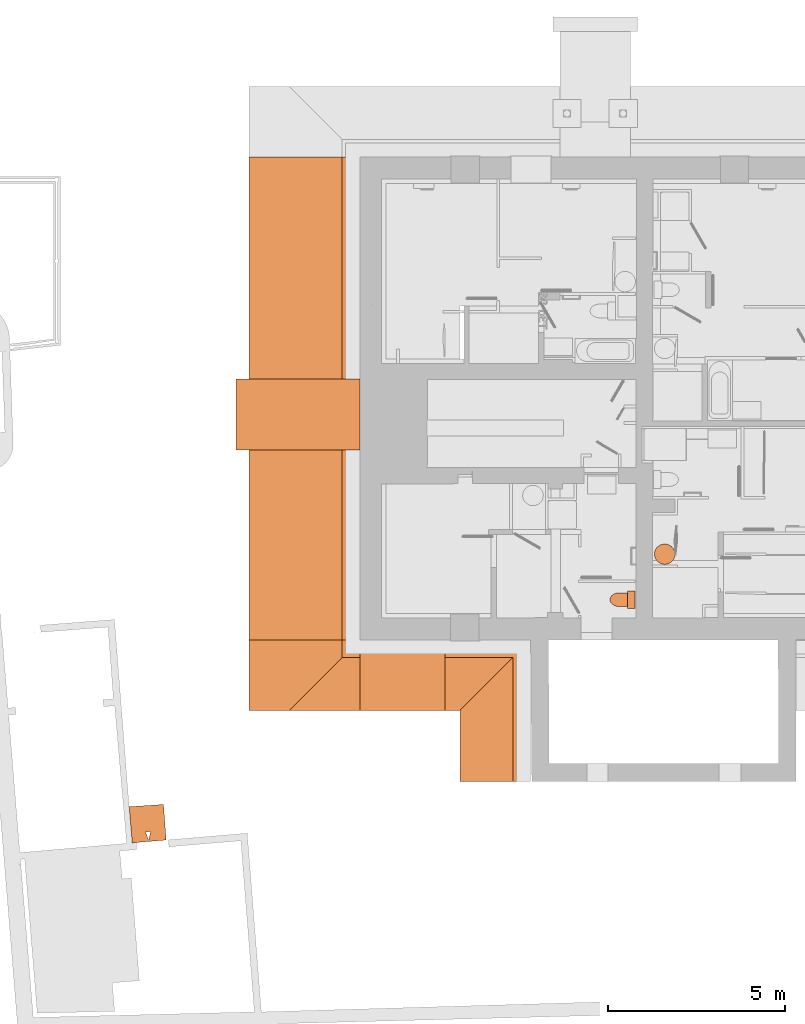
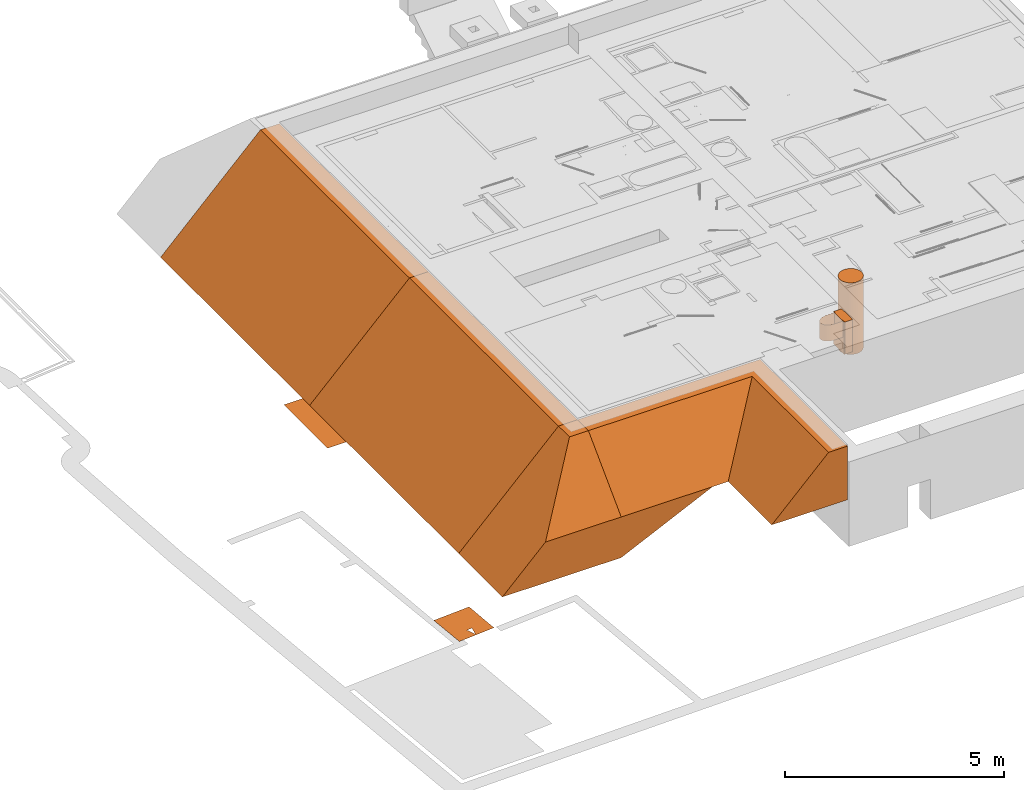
# Not in any storey, part 7 of 22: 8 proxies.
"""IFC4 model written with IfcOpenShell, lengths in metres."""

from ifc_helpers import new_model, si_unit, direction, origin_with_axes, place, context, subcontext, project, faceted_brep, element, save


model = new_model("IFC4")

# Units and contexts
model_context = context("Model", 3, precision=1e-05, world=origin_with_axes(), true_north=direction((1.0, 0.0)))
body_context = subcontext(model_context, "Body", "Model", "MODEL_VIEW")
ifc_project = project(units=[si_unit("LENGTHUNIT", "METRE"), si_unit("AREAUNIT", "SQUARE_METRE"), si_unit("VOLUMEUNIT", "CUBIC_METRE"), si_unit("MASSUNIT", "GRAM", prefix="KILO"), si_unit("TIMEUNIT", "SECOND"), si_unit("PLANEANGLEUNIT", "RADIAN"), si_unit("SOLIDANGLEUNIT", "STERADIAN")], contexts=[model_context])

# Proxies
placement = place(None, origin_with_axes())
element("IfcBuildingElementProxy", 1, at=placement, Name="ECS", PredefinedType="NOTDEFINED", context=body_context, shape_type="Brep", body=[
    faceted_brep([(148.878613, 18.640316, 2.31), (148.936217, 18.640316, 2.31), (148.991388, 18.651181, 2.31), (149.042394, 18.671867, 2.31), (149.088132, 18.701285, 2.31), (149.127496, 18.738342, 2.31), (149.159382, 18.781951, 2.31), (149.182685, 18.831019, 2.31), (149.196301, 18.884459, 2.31), (149.199131, 18.941024, 2.31), (149.190773, 18.99624, 2.31), (149.172175, 19.04763, 2.31), (149.144442, 19.094105, 2.31), (149.108679, 19.134574, 2.31), (149.065991, 19.167948, 2.31), (149.017481, 19.193136, 2.31), (148.964254, 19.209048, 2.31), (148.907415, 19.214594, 2.31), (148.850576, 19.209048, 2.31), (148.797349, 19.193136, 2.31), (148.748839, 19.167948, 2.31), (148.70615, 19.134574, 2.31), (148.670387, 19.094105, 2.31), (148.642654, 19.04763, 2.31), (148.624057, 18.99624, 2.31), (148.615698, 18.941024, 2.31), (148.618528, 18.884459, 2.31), (148.632145, 18.831019, 2.31), (148.655448, 18.781951, 2.31), (148.687334, 18.738342, 2.31), (148.726698, 18.701285, 2.31), (148.772435, 18.671867, 2.31), (148.823442, 18.651181, 2.31), (148.936217, 18.640316, 0.31), (148.878613, 18.640316, 0.31), (148.823442, 18.651181, 0.31), (148.772435, 18.671867, 0.31), (148.726698, 18.701285, 0.31), (148.687334, 18.738342, 0.31), (148.655448, 18.781951, 0.31), (148.632145, 18.831019, 0.31), (148.618528, 18.884459, 0.31), (148.615698, 18.941024, 0.31), (148.624057, 18.99624, 0.31), (148.642654, 19.04763, 0.31), (148.670387, 19.094105, 0.31), (148.70615, 19.134574, 0.31), (148.748839, 19.167948, 0.31), (148.797349, 19.193136, 0.31), (148.850576, 19.209048, 0.31), (148.907415, 19.214594, 0.31), (148.964254, 19.209048, 0.31), (149.017481, 19.193136, 0.31), (149.065991, 19.167948, 0.31), (149.108679, 19.134574, 0.31), (149.144442, 19.094105, 0.31), (149.172175, 19.04763, 0.31), (149.190773, 18.99624, 0.31), (149.199131, 18.941024, 0.31), (149.196301, 18.884459, 0.31), (149.182685, 18.831019, 0.31), (149.159382, 18.781951, 0.31), (149.127496, 18.738342, 0.31), (149.088132, 18.701285, 0.31), (149.042394, 18.671867, 0.31), (148.991388, 18.651181, 0.31)], [[[0, 1, 2, 3, 4, 5, 6, 7, 8, 9, 10, 11, 12, 13, 14, 15, 16, 17, 18, 19, 20, 21, 22, 23, 24, 25, 26, 27, 28, 29, 30, 31, 32]], [[33, 34, 35, 36, 37, 38, 39, 40, 41, 42, 43, 44, 45, 46, 47, 48, 49, 50, 51, 52, 53, 54, 55, 56, 57, 58, 59, 60, 61, 62, 63, 64, 65]], [[1, 0, 34, 33]], [[0, 32, 35, 34]], [[32, 31, 36, 35]], [[31, 30, 37, 36]], [[30, 29, 38, 37]], [[29, 28, 39, 38]], [[28, 27, 40, 39]], [[27, 26, 41, 40]], [[26, 25, 42, 41]], [[25, 24, 43, 42]], [[24, 23, 44, 43]], [[23, 22, 45, 44]], [[22, 21, 46, 45]], [[21, 20, 47, 46]], [[20, 19, 48, 47]], [[19, 18, 49, 48]], [[18, 17, 50, 49]], [[17, 16, 51, 50]], [[16, 15, 52, 51]], [[15, 14, 53, 52]], [[14, 13, 54, 53]], [[13, 12, 55, 54]], [[12, 11, 56, 55]], [[11, 10, 57, 56]], [[10, 9, 58, 57]], [[9, 8, 59, 58]], [[8, 7, 60, 59]], [[7, 6, 61, 60]], [[6, 5, 62, 61]], [[5, 4, 63, 62]], [[4, 3, 64, 63]], [[3, 2, 65, 64]], [[2, 1, 33, 65]]]),
])
element("IfcBuildingElementProxy", 2, at=placement, Name="Bloc WC", PredefinedType="NOTDEFINED", context=body_context, shape_type="AdvancedBrep", body=[
    faceted_brep([(148.06979, 17.390594, 2.31), (148.06979, 17.888564, 2.31), (148.06979, 17.890597, 2.31), (147.900809, 17.890603, 2.31), (147.868807, 17.890597, 2.31), (147.868807, 17.890427, 2.31), (147.867713, 17.890308, 2.31), (147.866627, 17.890123, 2.31), (147.865555, 17.889871, 2.31), (147.8645, 17.889556, 2.31), (147.863466, 17.889176, 2.31), (147.862457, 17.888735, 2.31), (147.86146, 17.888242, 2.31), (147.860491, 17.887696, 2.31), (147.859553, 17.887098, 2.31), (147.85865, 17.886449, 2.31), (147.857783, 17.885753, 2.31), (147.856955, 17.88501, 2.31), (147.856182, 17.884234, 2.31), (147.855456, 17.883415, 2.31), (147.854779, 17.882555, 2.31), (147.854152, 17.881658, 2.31), (147.853579, 17.880725, 2.31), (147.85306, 17.879761, 2.31), (147.852497, 17.878582, 2.31), (147.85201, 17.877369, 2.31), (147.851602, 17.876128, 2.31), (147.851275, 17.874863, 2.31), (147.851028, 17.873579, 2.31), (147.850774, 17.873579, 2.31), (147.850774, 17.870531, 2.31), (147.850774, 17.835568, 2.31), (147.850774, 17.446133, 2.31), (147.850778, 17.410576, 2.31), (147.850807, 17.409348, 2.31), (147.850916, 17.408125, 2.31), (147.851103, 17.406911, 2.31), (147.851368, 17.405712, 2.31), (147.85171, 17.404532, 2.31), (147.852126, 17.403377, 2.31), (147.852596, 17.402254, 2.31), (147.853135, 17.401163, 2.31), (147.853741, 17.400109, 2.31), (147.854413, 17.399094, 2.31), (147.855147, 17.398124, 2.31), (147.855942, 17.397202, 2.31), (147.856792, 17.396307, 2.31), (147.857697, 17.395467, 2.31), (147.858651, 17.394683, 2.31), (147.859652, 17.393961, 2.31), (147.860696, 17.393301, 2.31), (147.86178, 17.39271, 2.31), (147.862893, 17.392197, 2.31), (147.864035, 17.391753, 2.31), (147.865202, 17.391378, 2.31), (147.866389, 17.391073, 2.31), (147.867592, 17.390841, 2.31), (147.868807, 17.390594, 2.31), (147.900809, 17.390591, 2.31), (147.853399, 17.448333, 2.31), (147.861865, 17.448333, 2.31), (147.861865, 17.439868, 2.31), (147.861865, 17.422936, 2.31), (147.861865, 17.414469, 2.31), (147.853399, 17.414469, 2.31), (147.861865, 17.829303, 2.31), (147.853399, 17.829303, 2.31), (147.853399, 17.871633, 2.31), (147.861865, 17.871633, 2.31), (147.861865, 17.863167, 2.31), (147.861865, 17.837768, 2.31), (147.644215, 17.835162, 2.31), (147.628458, 17.835568, 2.31), (147.64159, 17.835315, 2.31), (148.06979, 17.888564, 1.41), (148.06979, 17.390594, 1.41), (147.868807, 17.390594, 1.41), (147.867592, 17.390841, 1.41), (147.866389, 17.391073, 1.41), (147.865202, 17.391378, 1.41), (147.864035, 17.391753, 1.41), (147.862893, 17.392197, 1.41), (147.86178, 17.39271, 1.41), (147.860696, 17.393301, 1.41), (147.859652, 17.393961, 1.41), (147.858651, 17.394683, 1.41), (147.857697, 17.395467, 1.41), (147.856792, 17.396307, 1.41), (147.855942, 17.397202, 1.41), (147.855147, 17.398124, 1.41), (147.854413, 17.399094, 1.41), (147.853741, 17.400109, 1.41), (147.853135, 17.401163, 1.41), (147.852596, 17.402254, 1.41), (147.852126, 17.403377, 1.41), (147.85171, 17.404532, 1.41), (147.851368, 17.405712, 1.41), (147.851103, 17.406911, 1.41), (147.850916, 17.408125, 1.41), (147.850807, 17.409348, 1.41), (147.850778, 17.410576, 1.41), (147.850774, 17.870531, 1.41), (147.850774, 17.873579, 1.41), (147.851028, 17.873579, 1.41), (147.851275, 17.874863, 1.41), (147.851602, 17.876128, 1.41), (147.85201, 17.877369, 1.41), (147.852497, 17.878582, 1.41), (147.85306, 17.879761, 1.41), (147.853579, 17.880725, 1.41), (147.854152, 17.881658, 1.41), (147.854779, 17.882555, 1.41), (147.855456, 17.883415, 1.41), (147.856182, 17.884234, 1.41), (147.856955, 17.88501, 1.41), (147.857783, 17.885753, 1.41), (147.85865, 17.886449, 1.41), (147.859553, 17.887098, 1.41), (147.860491, 17.887696, 1.41), (147.86146, 17.888242, 1.41), (147.862457, 17.888735, 1.41), (147.863466, 17.889176, 1.41), (147.8645, 17.889556, 1.41), (147.865555, 17.889871, 1.41), (147.866627, 17.890123, 1.41), (147.867713, 17.890308, 1.41), (147.868807, 17.890427, 1.41), (147.868807, 17.890597, 1.41), (148.06979, 17.890597, 1.41), (147.644954, 17.835119, 1.86), (147.645957, 17.835061, 1.86), (147.654702, 17.834552, 1.86), (147.654702, 17.835568, 1.86), (147.850774, 17.835568, 1.86), (147.850774, 17.446133, 1.86), (147.642089, 17.445623, 1.86), (147.641978, 17.445623, 1.86), (147.641873, 17.445623, 1.86), (147.641772, 17.445623, 1.86), (147.641573, 17.445623, 1.86), (147.641372, 17.445623, 1.86), (147.641267, 17.445623, 1.86), (147.641157, 17.445623, 1.86), (147.627103, 17.445623, 1.86), (147.609602, 17.446049, 1.86), (147.592146, 17.447372, 1.86), (147.574782, 17.449596, 1.86), (147.556865, 17.452711, 1.86), (147.539213, 17.456726, 1.86), (147.521788, 17.461631, 1.86), (147.510924, 17.464884, 1.86), (147.500255, 17.468727, 1.86), (147.489811, 17.473146, 1.86), (147.479625, 17.47813, 1.86), (147.478779, 17.478557, 1.86), (147.465058, 17.485656, 1.86), (147.451805, 17.493595, 1.86), (147.439073, 17.502345, 1.86), (147.438819, 17.5026, 1.86), (147.430041, 17.509312, 1.86), (147.421649, 17.5165, 1.86), (147.413673, 17.524146, 1.86), (147.406136, 17.532226, 1.86), (147.405802, 17.53257, 1.86), (147.398578, 17.541252, 1.86), (147.391841, 17.550317, 1.86), (147.385608, 17.559736, 1.86), (147.379898, 17.569481, 1.86), (147.379812, 17.569565, 1.86), (147.379558, 17.569903, 1.86), (147.376496, 17.575169, 1.86), (147.37373, 17.580597, 1.86), (147.371275, 17.586171, 1.86), (147.369137, 17.591875, 1.86), (147.367323, 17.597689, 1.86), (147.365839, 17.603597, 1.86), (147.364056, 17.610801, 1.86), (147.362659, 17.618089, 1.86), (147.361657, 17.625443, 1.86), (147.361052, 17.632839, 1.86), (147.360846, 17.640257, 1.86), (147.360848, 17.640935, 1.86), (147.361052, 17.648353, 1.86), (147.361657, 17.655749, 1.86), (147.362659, 17.663102, 1.86), (147.364056, 17.67039, 1.86), (147.365844, 17.677592, 1.86), (147.367325, 17.683488, 1.86), (147.369138, 17.689289, 1.86), (147.371275, 17.69498, 1.86), (147.373729, 17.700541, 1.86), (147.376493, 17.705954, 1.86), (147.379557, 17.711204, 1.86), (147.379812, 17.711541, 1.86), (147.379896, 17.711709, 1.86), (147.385598, 17.72144, 1.86), (147.391826, 17.730843, 1.86), (147.398567, 17.739885, 1.86), (147.405798, 17.74854, 1.86), (147.40614, 17.748877, 1.86), (147.413673, 17.75698, 1.86), (147.421648, 17.764649, 1.86), (147.430039, 17.771861, 1.86), (147.43882, 17.778592, 1.86), (147.439073, 17.778761, 1.86), (147.451794, 17.78753, 1.86), (147.465044, 17.795475, 1.86), (147.478776, 17.802556, 1.86), (147.479626, 17.802973, 1.86), (147.489811, 17.807979, 1.86), (147.500253, 17.812423, 1.86), (147.510922, 17.816289, 1.86), (147.521786, 17.819568, 1.86), (147.539214, 17.82444, 1.86), (147.556867, 17.828422, 1.86), (147.574698, 17.831505, 1.86), (147.574783, 17.831589, 1.86), (147.592149, 17.833788, 1.86), (147.609604, 17.835117, 1.86), (147.627103, 17.835571, 1.86), (147.627823, 17.835119, 1.86), (147.627781, 17.835568, 1.86), (147.628458, 17.835568, 1.86), (147.644215, 17.835162, 1.86), (147.644954, 17.835119, 2.31), (147.645957, 17.835119, 2.31), (147.654702, 17.834552, 2.31), (147.654702, 17.835568, 2.31), (147.642089, 17.445623, 2.31), (147.641978, 17.445623, 2.31), (147.641873, 17.445623, 2.31), (147.641772, 17.445623, 2.31), (147.641573, 17.445623, 2.31), (147.641372, 17.445623, 2.31), (147.641267, 17.445623, 2.31), (147.641157, 17.445623, 2.31), (147.628458, 17.445623, 2.31), (147.627781, 17.445623, 2.31), (147.627103, 17.445623, 2.31), (147.609602, 17.446049, 2.31), (147.592146, 17.447372, 2.31), (147.574782, 17.449596, 2.31), (147.556865, 17.452711, 2.31), (147.539213, 17.456726, 2.31), (147.521788, 17.461631, 2.31), (147.510924, 17.464884, 2.31), (147.500255, 17.468727, 2.31), (147.489811, 17.473146, 2.31), (147.479625, 17.47813, 2.31), (147.478779, 17.478557, 2.31), (147.465058, 17.485656, 2.31), (147.451805, 17.493595, 2.31), (147.439073, 17.502345, 2.31), (147.438819, 17.5026, 2.31), (147.430041, 17.509312, 2.31), (147.421649, 17.5165, 2.31), (147.413673, 17.524146, 2.31), (147.406136, 17.532226, 2.31), (147.405802, 17.53257, 2.31), (147.398578, 17.541252, 2.31), (147.391841, 17.550317, 2.31), (147.385608, 17.559736, 2.31), (147.379898, 17.569481, 2.31), (147.379812, 17.569565, 2.31), (147.379558, 17.569903, 2.31), (147.376496, 17.575169, 2.31), (147.37373, 17.580597, 2.31), (147.371275, 17.586171, 2.31), (147.369137, 17.591875, 2.31), (147.367323, 17.597689, 2.31), (147.365839, 17.603597, 2.31), (147.364056, 17.610801, 2.31), (147.362659, 17.618089, 2.31), (147.361657, 17.625443, 2.31), (147.361052, 17.632839, 2.31), (147.360846, 17.640257, 2.31), (147.360848, 17.640935, 2.31), (147.361052, 17.648353, 2.31), (147.361657, 17.655749, 2.31), (147.362659, 17.663102, 2.31), (147.364056, 17.67039, 2.31), (147.365844, 17.677592, 2.31), (147.367325, 17.683488, 2.31), (147.369138, 17.689289, 2.31), (147.371275, 17.69498, 2.31), (147.373729, 17.700541, 2.31), (147.376493, 17.705954, 2.31), (147.379557, 17.711204, 2.31), (147.379812, 17.711541, 2.31), (147.379896, 17.711709, 2.31), (147.385598, 17.72144, 2.31), (147.391826, 17.730843, 2.31), (147.398567, 17.739885, 2.31), (147.405798, 17.74854, 2.31), (147.40614, 17.748877, 2.31), (147.413673, 17.75698, 2.31), (147.421648, 17.764649, 2.31), (147.430039, 17.771861, 2.31), (147.43882, 17.778592, 2.31), (147.439073, 17.778761, 2.31), (147.451794, 17.78753, 2.31), (147.465044, 17.795475, 2.31), (147.478776, 17.802556, 2.31), (147.479626, 17.802973, 2.31), (147.489811, 17.807979, 2.31), (147.500253, 17.812423, 2.31), (147.510922, 17.816289, 2.31), (147.521786, 17.819568, 2.31), (147.539214, 17.82444, 2.31), (147.556867, 17.828422, 2.31), (147.574698, 17.831505, 2.31), (147.574783, 17.831589, 2.31), (147.592149, 17.833788, 2.31), (147.609604, 17.835117, 2.31), (147.627103, 17.835571, 2.31), (147.627823, 17.835568, 2.31), (147.627823, 17.835119, 2.31)], [[[0, 1, 2, 3, 4, 5, 6, 7, 8, 9, 10, 11, 12, 13, 14, 15, 16, 17, 18, 19, 20, 21, 22, 23, 24, 25, 26, 27, 28, 29, 30, 31, 32, 33, 34, 35, 36, 37, 38, 39, 40, 41, 42, 43, 44, 45, 46, 47, 48, 49, 50, 51, 52, 53, 54, 55, 56, 57, 58], [59, 60, 61, 62, 63, 64], [65, 66, 67, 68, 69, 70]], [[71, 72, 73]], [[74, 75, 76, 77, 78, 79, 80, 81, 82, 83, 84, 85, 86, 87, 88, 89, 90, 91, 92, 93, 94, 95, 96, 97, 98, 99, 100, 101, 102, 103, 104, 105, 106, 107, 108, 109, 110, 111, 112, 113, 114, 115, 116, 117, 118, 119, 120, 121, 122, 123, 124, 125, 126, 127, 128]], [[1, 0, 75, 74]], [[0, 58, 57, 76, 75]], [[57, 56, 77, 76]], [[56, 55, 78, 77]], [[55, 54, 79, 78]], [[54, 53, 80, 79]], [[53, 52, 81, 80]], [[52, 51, 82, 81]], [[51, 50, 83, 82]], [[50, 49, 84, 83]], [[49, 48, 85, 84]], [[48, 47, 86, 85]], [[47, 46, 87, 86]], [[46, 45, 88, 87]], [[45, 44, 89, 88]], [[44, 43, 90, 89]], [[43, 42, 91, 90]], [[42, 41, 92, 91]], [[41, 40, 93, 92]], [[40, 39, 94, 93]], [[39, 38, 95, 94]], [[38, 37, 96, 95]], [[37, 36, 97, 96]], [[36, 35, 98, 97]], [[35, 34, 99, 98]], [[34, 33, 100, 99]], [[33, 32, 31, 30, 101, 100]], [[30, 29, 102, 101]], [[29, 28, 103, 102]], [[28, 27, 104, 103]], [[27, 26, 105, 104]], [[26, 25, 106, 105]], [[25, 24, 107, 106]], [[24, 23, 108, 107]], [[23, 22, 109, 108]], [[22, 21, 110, 109]], [[21, 20, 111, 110]], [[20, 19, 112, 111]], [[19, 18, 113, 112]], [[18, 17, 114, 113]], [[17, 16, 115, 114]], [[16, 15, 116, 115]], [[15, 14, 117, 116]], [[14, 13, 118, 117]], [[13, 12, 119, 118]], [[12, 11, 120, 119]], [[11, 10, 121, 120]], [[10, 9, 122, 121]], [[9, 8, 123, 122]], [[8, 7, 124, 123]], [[7, 6, 125, 124]], [[6, 5, 126, 125]], [[5, 4, 127, 126]], [[4, 3, 2, 128, 127]], [[2, 1, 74, 128]], [[60, 59, 64, 63, 62, 61]], [[66, 65, 70, 69, 68, 67]], [[129, 130, 131, 132, 133, 134, 135, 136, 137, 138, 139, 140, 141, 142, 143, 144, 145, 146, 147, 148, 149, 150, 151, 152, 153, 154, 155, 156, 157, 158, 159, 160, 161, 162, 163, 164, 165, 166, 167, 168, 169, 170, 171, 172, 173, 174, 175, 176, 177, 178, 179, 180, 181, 182, 183, 184, 185, 186, 187, 188, 189, 190, 191, 192, 193, 194, 195, 196, 197, 198, 199, 200, 201, 202, 203, 204, 205, 206, 207, 208, 209, 210, 211, 212, 213, 214, 215, 216, 217, 218, 219, 220, 221, 222, 223]], [[224, 225, 130, 129]], [[225, 226, 131, 130]], [[226, 227, 132, 131]], [[227, 31, 133, 132]], [[31, 32, 134, 133]], [[32, 228, 135, 134]], [[228, 229, 136, 135]], [[229, 230, 137, 136]], [[230, 231, 138, 137]], [[231, 232, 139, 138]], [[232, 233, 140, 139]], [[233, 234, 141, 140]], [[234, 235, 142, 141]], [[235, 236, 237, 238, 143, 142]], [[238, 239, 144, 143]], [[239, 240, 145, 144]], [[240, 241, 146, 145]], [[241, 242, 147, 146]], [[242, 243, 148, 147]], [[243, 244, 149, 148]], [[244, 245, 150, 149]], [[245, 246, 151, 150]], [[246, 247, 152, 151]], [[247, 248, 153, 152]], [[248, 249, 154, 153]], [[249, 250, 155, 154]], [[250, 251, 156, 155]], [[251, 252, 157, 156]], [[252, 253, 158, 157]], [[253, 254, 159, 158]], [[254, 255, 160, 159]], [[255, 256, 161, 160]], [[256, 257, 162, 161]], [[257, 258, 163, 162]], [[258, 259, 164, 163]], [[259, 260, 165, 164]], [[260, 261, 166, 165]], [[261, 262, 167, 166]], [[262, 263, 168, 167]], [[263, 264, 169, 168]], [[264, 265, 170, 169]], [[265, 266, 171, 170]], [[266, 267, 172, 171]], [[267, 268, 173, 172]], [[268, 269, 174, 173]], [[269, 270, 175, 174]], [[270, 271, 176, 175]], [[271, 272, 177, 176]], [[272, 273, 178, 177]], [[273, 274, 179, 178]], [[274, 275, 180, 179]], [[275, 276, 181, 180]], [[276, 277, 182, 181]], [[277, 278, 183, 182]], [[278, 279, 184, 183]], [[279, 280, 185, 184]], [[280, 281, 186, 185]], [[281, 282, 187, 186]], [[282, 283, 188, 187]], [[283, 284, 189, 188]], [[284, 285, 190, 189]], [[285, 286, 191, 190]], [[286, 287, 192, 191]], [[287, 288, 193, 192]], [[288, 289, 194, 193]], [[289, 290, 195, 194]], [[290, 291, 196, 195]], [[291, 292, 197, 196]], [[292, 293, 198, 197]], [[293, 294, 199, 198]], [[294, 295, 200, 199]], [[295, 296, 201, 200]], [[296, 297, 202, 201]], [[297, 298, 203, 202]], [[298, 299, 204, 203]], [[299, 300, 205, 204]], [[300, 301, 206, 205]], [[301, 302, 207, 206]], [[302, 303, 208, 207]], [[303, 304, 209, 208]], [[304, 305, 210, 209]], [[305, 306, 211, 210]], [[306, 307, 212, 211]], [[307, 308, 213, 212]], [[308, 309, 214, 213]], [[309, 310, 215, 214]], [[310, 311, 216, 215]], [[311, 312, 217, 216]], [[312, 313, 218, 217]], [[313, 314, 219, 218]], [[314, 315, 221, 219]], [[315, 316, 220, 221]], [[316, 315, 221, 220]], [[315, 72, 222, 221]], [[72, 71, 223, 222]], [[71, 224, 129, 223]]]),
])
element("IfcBuildingElementProxy", 3, at=placement, Name="Undefined", PredefinedType="NOTDEFINED", context=body_context, shape_type="Brep", body=[
    faceted_brep([(133.839746, 11.041035, 2.31), (134.239402, 11.075486, 2.31), (134.311805, 11.081728, 2.31), (134.292871, 11.329224, 2.31), (133.818564, 11.289871, 2.31), (134.279124, 11.508913, 2.31), (134.278667, 11.514896, 2.31), (134.278634, 11.515329, 2.31), (134.277927, 11.524561, 2.31), (134.277818, 11.525986, 2.31), (134.277774, 11.526571, 2.31), (134.277368, 11.531874, 2.31), (134.277055, 11.535961, 2.31), (134.276621, 11.541631, 2.31), (134.276511, 11.543077, 2.31), (134.276357, 11.545083, 2.31), (134.274071, 11.574966, 2.31), (134.253389, 11.573272, 2.31), (134.22911, 11.571284, 2.31), (133.934246, 11.547136, 2.31), (133.928348, 11.546653, 2.31), (133.92797, 11.546622, 2.31), (133.916578, 11.545689, 2.31), (133.916307, 11.545666, 2.31), (133.916199, 11.545658, 2.31), (133.915929, 11.545635, 2.31), (133.901475, 11.544452, 2.31), (133.900481, 11.54437, 2.31), (133.89137, 11.543624, 2.31), (133.881532, 11.542818, 2.31), (133.881296, 11.542799, 2.31), (133.86722, 11.541646, 2.31), (133.866985, 11.541627, 2.31), (133.797617, 11.535947, 2.31), (134.273285, 11.585239, 2.31), (134.272351, 11.597448, 2.31), (134.260977, 11.746121, 2.31), (134.260629, 11.750672, 2.31), (134.260615, 11.750862, 2.31), (134.260156, 11.756857, 2.31), (134.260145, 11.757, 2.31), (134.260142, 11.757047, 2.31), (134.260131, 11.75719, 2.31), (134.259547, 11.764821, 2.31), (134.259509, 11.76532, 2.31), (134.259205, 11.769294, 2.31), (134.258741, 11.775358, 2.31), (134.258732, 11.775476, 2.31), (134.25816, 11.782948, 2.31), (134.258151, 11.783067, 2.31), (134.257757, 11.788214, 2.31), (134.255137, 11.822467, 2.31), (133.775993, 11.789979, 2.31), (134.800067, 11.123817, 2.31), (134.782028, 11.369284, 2.31), (134.379817, 11.08759, 2.31), (134.823185, 10.849574, 2.31), (134.327107, 10.840273, 2.31), (133.862897, 10.769061, 2.31), (133.975865, 10.778676, 2.31), (134.739384, 11.613073, 2.31), (134.76317, 11.615021, 2.31), (134.763963, 11.615086, 2.31), (134.746234, 11.856337, 2.31), (134.720642, 11.854325, 2.31), (134.693328, 11.852178, 2.31), (134.334679, 11.579929, 2.31), (134.339273, 11.580305, 2.31), (134.342242, 11.580549, 2.31), (134.35393, 11.581506, 2.31), (134.362355, 11.582196, 2.31), (134.373337, 11.583095, 2.31), (134.374529, 11.583193, 2.31), (134.377462, 11.583433, 2.31), (134.396643, 11.585004, 2.31), (134.397548, 11.585078, 2.31), (134.40999, 11.586097, 2.31)], [[[0, 1, 2, 3, 4]], [[4, 3, 5, 6, 7, 8, 9, 10, 11, 12, 13, 14, 15, 16, 17, 18, 19, 20, 21, 22, 23, 24, 25, 26, 27, 28, 29, 30, 31, 32, 33]], [[32, 31, 30, 29, 28, 27, 26, 25, 24, 23, 22, 21, 20, 19, 18, 17, 16, 34, 35, 36, 37, 38, 39, 40, 41, 42, 43, 44, 45, 46, 47, 48, 49, 50, 51, 52, 33]], [[53, 54, 3, 2, 55]], [[56, 53, 55, 57, 1, 0, 58, 59]], [[60, 61, 62, 63, 64, 65, 51, 50, 49, 48, 47, 46, 45, 44, 43, 42, 41, 40, 39, 38, 37, 36, 35, 34, 16, 66, 67, 68, 69, 70, 71, 72, 73, 74, 75, 76]], [[61, 60, 76, 75, 74, 73, 72, 71, 70, 69, 68, 67, 66, 16, 15, 14, 13, 12, 11, 10, 9, 8, 7, 6, 5, 3, 54, 62]]]),
])
element("IfcBuildingElementProxy", 4, at=placement, Name="Undefined", PredefinedType="NOTDEFINED", context=body_context, shape_type="Brep", body=[
    faceted_brep([(140.293266, 16.505477, 0.134), (140.293266, 16.505477, 1.27), (142.706074, 16.505477, 1.27), (140.293266, 16.505477, 2.77), (140.293266, 16.005477, 2.77), (140.293266, 14.505477, 1.27)], [[[0, 1, 2]], [[3, 4, 5, 1]]]),
    faceted_brep([(142.706074, 16.505477, 1.27), (140.293266, 16.505477, 0.134), (140.293266, 14.505477, 0.134), (142.706074, 14.505477, 1.27)], [[[0, 1, 2, 3]]]),
    faceted_brep([(140.293266, 16.505477, 0.134), (140.293266, 14.505477, 0.134), (137.157266, 14.505477, 0.134), (137.157266, 16.505477, 0.134), (140.293266, 14.505477, 1.27), (138.293266, 14.505477, 1.27), (140.293266, 16.505477, 1.27), (138.293266, 16.505477, 1.27), (139.793266, 16.505477, 2.77), (140.293266, 16.505477, 2.77), (142.706074, 14.505477, 1.27), (139.793266, 16.005477, 2.77), (140.293266, 16.005477, 2.77), (142.706074, 16.505477, 1.27)], [[[0, 1, 2, 3]], [[2, 1, 4, 5]], [[6, 0, 3, 7, 8, 9]], [[10, 4, 1]], [[11, 5, 4, 12]], [[6, 4, 10, 13]], [[11, 8, 7, 3, 2, 5]]]),
    faceted_brep([(139.793266, 16.505477, 2.77), (139.793266, 16.005477, 2.77), (140.293266, 16.005477, 2.77), (140.293266, 16.505477, 2.77)], [[[0, 1, 2, 3]]]),
])
element("IfcBuildingElementProxy", 5, at=placement, Name="Undefined", PredefinedType="NOTDEFINED", context=body_context, shape_type="Brep", body=[
    faceted_brep([(145.118883, 16.505477, 1.27), (145.118883, 16.505477, 2.77), (145.118883, 12.509526, 2.77), (145.118883, 12.509526, 1.27), (140.293266, 16.505477, 1.27), (140.293266, 16.505477, 2.77)], [[[0, 1, 2, 3]], [[0, 4, 5, 1]]]),
    faceted_brep([(144.618883, 16.005477, 2.77), (143.118883, 14.505477, 1.27), (143.118883, 12.509526, 1.27), (144.618883, 12.509526, 2.77), (144.10694, 16.005477, 2.77), (140.293266, 16.005477, 2.77), (140.293266, 14.505477, 1.27), (140.293266, 16.505477, 2.77), (140.293266, 16.505477, 1.27), (145.118883, 16.505477, 2.77), (145.118883, 12.509526, 2.77), (145.118883, 12.509526, 1.27), (145.118883, 16.505477, 1.27)], [[[0, 1, 2, 3]], [[1, 0, 4, 5, 6]], [[7, 8, 6, 5]], [[9, 7, 5, 4, 0, 3, 10]], [[11, 10, 3, 2]], [[2, 1, 6, 8, 12, 11]]]),
])
element("IfcBuildingElementProxy", 6, at=placement, Name="Undefined", PredefinedType="NOTDEFINED", context=body_context, shape_type="Brep", body=[
    faceted_brep([(140.293266, 21.869425, -0.05), (140.293266, 23.869425, -0.05), (136.793266, 23.869425, -0.05), (136.793266, 21.869425, -0.05), (140.253266, 21.869425, -0.05)], [[[0, 1, 2, 3, 4]]]),
])
element("IfcBuildingElementProxy", 7, at=placement, Name="Undefined", PredefinedType="NOTDEFINED", context=body_context, shape_type="Brep", body=[
    faceted_brep([(140.293267, 30.144193, 0.134), (140.293266, 23.324835, 0.134), (137.157266, 23.324835, 0.134), (137.157266, 30.144193, 0.134), (139.793267, 30.144193, 2.77), (140.293267, 30.144193, 2.77), (140.293266, 23.324835, 2.77), (139.793266, 23.324835, 2.77), (139.793266, 26.330519, 2.77)], [[[0, 1, 2, 3]], [[0, 3, 4, 5]], [[5, 6, 1, 0]], [[3, 2, 7, 8, 4]], [[8, 7, 6, 5, 4]], [[2, 1, 6, 7]]]),
])
element("IfcBuildingElementProxy", 8, at=placement, Name="Undefined", PredefinedType="NOTDEFINED", context=body_context, shape_type="Brep", body=[
    faceted_brep([(140.293266, 16.505477, 0.134), (140.293266, 23.324835, 0.134), (140.293266, 23.324835, 2.77), (140.293266, 16.505477, 2.77)], [[[0, 1, 2, 3]]]),
    faceted_brep([(140.293266, 16.505477, 2.77), (140.293266, 23.324835, 2.77), (139.793266, 23.324835, 2.77), (139.793266, 16.505477, 2.77), (137.157266, 16.505477, 0.134), (140.293266, 16.505477, 0.134)], [[[0, 1, 2, 3]], [[4, 5, 0, 3]]]),
    faceted_brep([(137.157266, 23.324835, 0.134), (137.157266, 16.505477, 0.134), (139.793266, 16.505477, 2.77), (139.793266, 23.324835, 2.77), (140.293266, 23.324835, 0.134), (140.293266, 16.505477, 0.134), (140.293266, 23.324835, 2.77)], [[[0, 1, 2, 3]], [[1, 0, 4, 5]], [[4, 6, 3, 0]]]),
])

save(model, "model.ifc")
